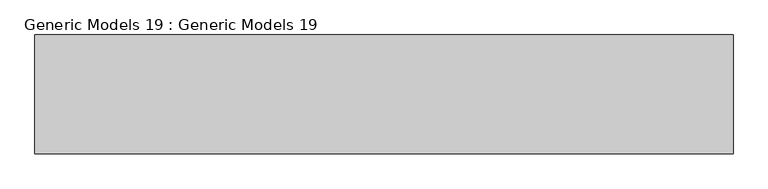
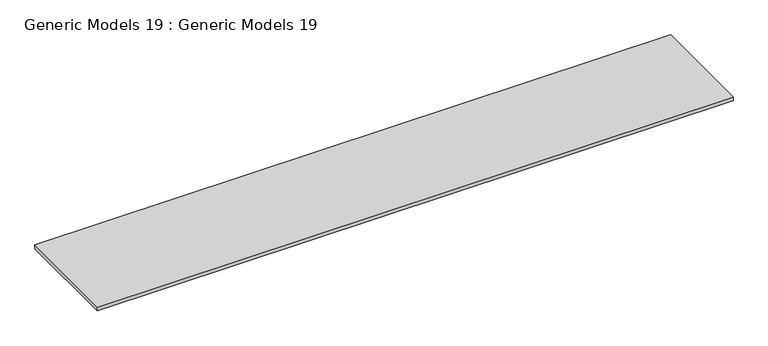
"""IFC4 building model written with IfcOpenShell, lengths in millimetres: proxy geometry, Generic Models 19 : Generic Models 19."""

from ifc_helpers import new_model, si_unit, frame, origin, place, context, project, spatial, polyline, outline, extrude, source, transform, mapped, element, save


def generic_models_19_generic_models_19_655a388a(model_context):
    return source(origin(), model_context, "Body", "SweptSolid", [
        extrude(outline(polyline([(-3418.5171482, -4220.4137562), (-11468.5171482, -4220.4137562), (-11468.5171482, -2849.4449025), (-3418.5171482, -2849.4449025), (-3418.5171482, -4220.4137562)])), frame((0.0, 0.0, 2950.0), z_axis=(0.0, 0.0, 1.0), x_axis=(1.0, 0.0, 0.0)), (0.0, 0.0, 1.0), 50.0),
    ])


if __name__ == "__main__":
    model = new_model("IFC4")
    model_context = context("Model", 3, world=origin())
    ifc_project = project(units=[si_unit("LENGTHUNIT", "METRE", prefix="MILLI")], contexts=[model_context])
    site = spatial("IfcSite", under=ifc_project)
    building = spatial("IfcBuilding", under=site)
    placement = place(None, origin())
    generic_models_19_generic_models_19_shape = generic_models_19_generic_models_19_655a388a(model_context)
    element("IfcBuildingElementProxy", 1, Name="Generic Models 19 : Generic Models 19", ObjectType="Generic Models 19 : Generic Models 19", at=placement, inside=building, context=model_context, shape_type="MappedRepresentation", body=[
        mapped(generic_models_19_generic_models_19_shape, transform((0.0, 0.0, 0.0), x_axis=(1.0, 0.0, 0.0), y_axis=(0.0, 1.0, 0.0), z_axis=(0.0, 0.0, 1.0))),
    ])
    save(model, "model.ifc")
